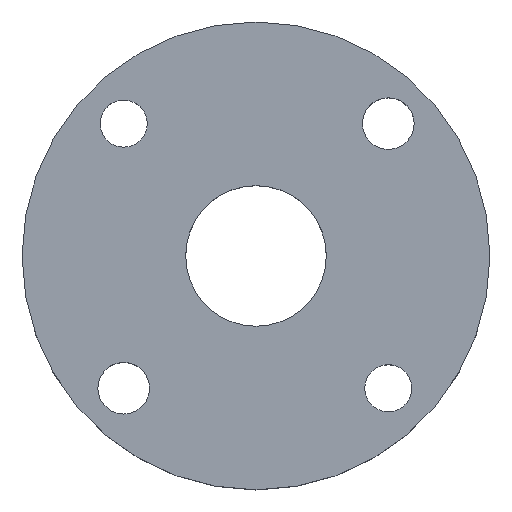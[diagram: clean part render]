
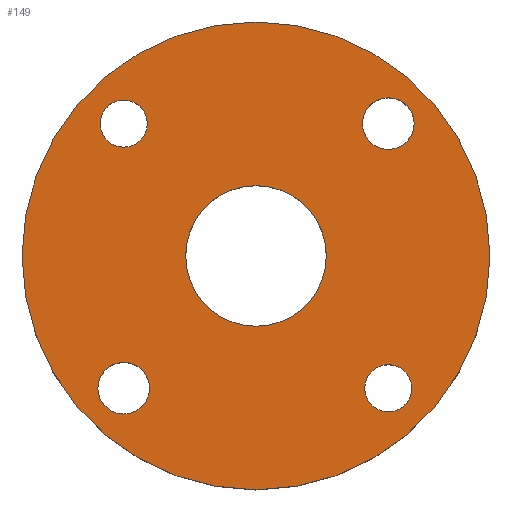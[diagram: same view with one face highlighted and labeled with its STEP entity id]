
A CAD part, top view. The second image highlights one B-rep face of the part: STEP entity #149.
In plain terms, the highlighted planar face has unit normal (0, 0, 1).
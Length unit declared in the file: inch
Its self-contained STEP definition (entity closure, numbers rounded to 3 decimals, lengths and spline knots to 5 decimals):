
#33=FACE_BOUND('',#52,.T.);
#34=FACE_BOUND('',#53,.T.);
#35=FACE_BOUND('',#54,.T.);
#36=FACE_BOUND('',#55,.T.);
#37=FACE_BOUND('',#56,.T.);
#43=FACE_OUTER_BOUND('',#51,.T.);
#51=EDGE_LOOP('',(#111));
#52=EDGE_LOOP('',(#112));
#53=EDGE_LOOP('',(#113));
#54=EDGE_LOOP('',(#114));
#55=EDGE_LOOP('',(#115));
#56=EDGE_LOOP('',(#116));
#69=CIRCLE('',#172,0.625);
#70=CIRCLE('',#173,0.18775);
#71=CIRCLE('',#174,0.06299);
#72=CIRCLE('',#175,0.0689);
#73=CIRCLE('',#176,0.06299);
#74=CIRCLE('',#177,0.0689);
#81=VERTEX_POINT('',#241);
#82=VERTEX_POINT('',#243);
#83=VERTEX_POINT('',#245);
#84=VERTEX_POINT('',#247);
#85=VERTEX_POINT('',#249);
#86=VERTEX_POINT('',#251);
#93=EDGE_CURVE('',#81,#81,#69,.T.);
#94=EDGE_CURVE('',#82,#82,#70,.T.);
#95=EDGE_CURVE('',#83,#83,#71,.T.);
#96=EDGE_CURVE('',#84,#84,#72,.T.);
#97=EDGE_CURVE('',#85,#85,#73,.T.);
#98=EDGE_CURVE('',#86,#86,#74,.T.);
#111=ORIENTED_EDGE('',*,*,#93,.T.);
#112=ORIENTED_EDGE('',*,*,#94,.F.);
#113=ORIENTED_EDGE('',*,*,#95,.F.);
#114=ORIENTED_EDGE('',*,*,#96,.F.);
#115=ORIENTED_EDGE('',*,*,#97,.F.);
#116=ORIENTED_EDGE('',*,*,#98,.F.);
#147=PLANE('',#171);
#149=ADVANCED_FACE('',(#43,#33,#34,#35,#36,#37),#147,.T.);
#171=AXIS2_PLACEMENT_3D('',#240,#193,#194);
#172=AXIS2_PLACEMENT_3D('',#242,#195,#196);
#173=AXIS2_PLACEMENT_3D('',#244,#197,#198);
#174=AXIS2_PLACEMENT_3D('',#246,#199,#200);
#175=AXIS2_PLACEMENT_3D('',#248,#201,#202);
#176=AXIS2_PLACEMENT_3D('',#250,#203,#204);
#177=AXIS2_PLACEMENT_3D('',#252,#205,#206);
#193=DIRECTION('center_axis',(0.,0.,1.));
#194=DIRECTION('ref_axis',(1.,0.,0.));
#195=DIRECTION('center_axis',(0.,0.,1.));
#196=DIRECTION('ref_axis',(1.,0.,0.));
#197=DIRECTION('center_axis',(0.,0.,1.));
#198=DIRECTION('ref_axis',(1.,0.,0.));
#199=DIRECTION('center_axis',(0.,0.,1.));
#200=DIRECTION('ref_axis',(1.,0.,0.));
#201=DIRECTION('center_axis',(0.,0.,1.));
#202=DIRECTION('ref_axis',(1.,0.,0.));
#203=DIRECTION('center_axis',(0.,0.,1.));
#204=DIRECTION('ref_axis',(1.,0.,0.));
#205=DIRECTION('center_axis',(0.,0.,1.));
#206=DIRECTION('ref_axis',(1.,0.,0.));
#240=CARTESIAN_POINT('Origin',(0.,0.,0.25));
#241=CARTESIAN_POINT('',(0.625,0.,0.25));
#242=CARTESIAN_POINT('Origin',(0.,0.,0.25));
#243=CARTESIAN_POINT('',(0.18775,0.,0.25));
#244=CARTESIAN_POINT('Origin',(0.,0.,0.25));
#245=CARTESIAN_POINT('',(-0.41655,0.35355,0.25));
#246=CARTESIAN_POINT('Origin',(-0.35355,0.35355,0.25));
#247=CARTESIAN_POINT('',(-0.42245,-0.35355,0.25));
#248=CARTESIAN_POINT('Origin',(-0.35355,-0.35355,0.25));
#249=CARTESIAN_POINT('',(0.29056,-0.35355,0.25));
#250=CARTESIAN_POINT('Origin',(0.35355,-0.35355,0.25));
#251=CARTESIAN_POINT('',(0.28466,0.35355,0.25));
#252=CARTESIAN_POINT('Origin',(0.35355,0.35355,0.25));
